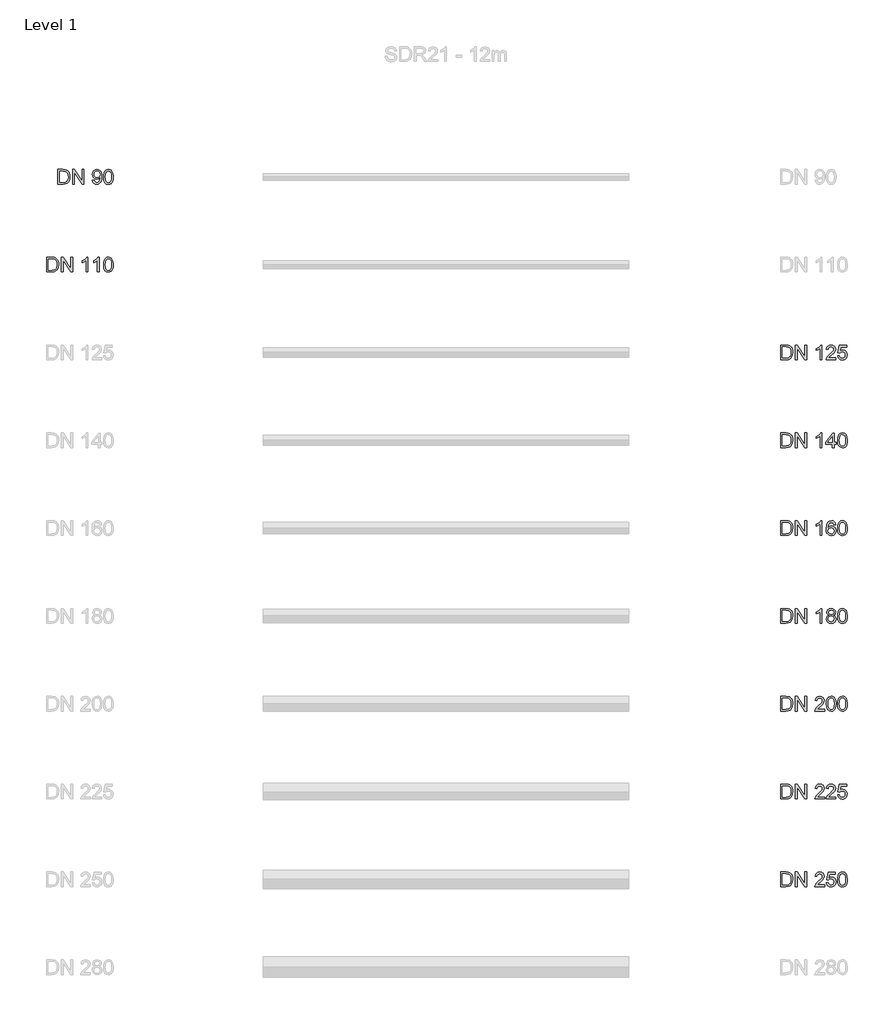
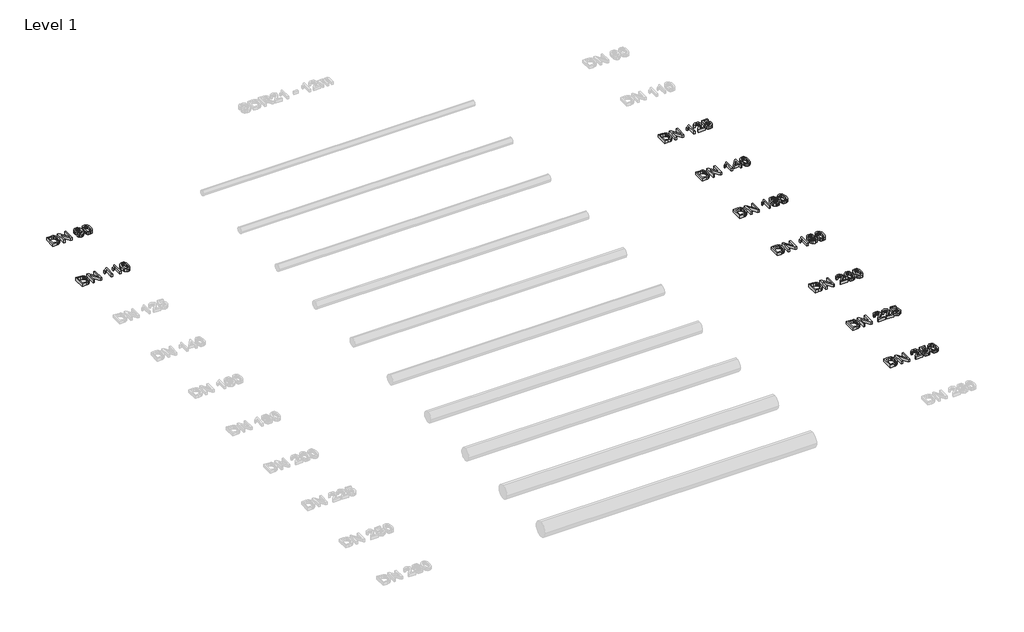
# One storey, part 9 of 26: 9 proxies.
"""IFC4 building model written with IfcOpenShell, lengths in millimetres."""

from ifc_helpers import new_model, si_unit, origin, origin_with_axes, place, context, project, spatial, polyline, outline, extrude, element, save

model = new_model("IFC4")

# Units and contexts
model_context = context("Model", 3, world=origin())
ifc_project = project(units=[si_unit("LENGTHUNIT", "METRE", prefix="MILLI")], contexts=[model_context])

# Site, building, storey
site = spatial("IfcSite", under=ifc_project)
building = spatial("IfcBuilding", under=site)
storey = spatial("IfcBuildingStorey", under=building, Name="Level 1", Elevation=0.0)

# Proxies
placement = place(None, origin())
element("IfcBuildingElementProxy", 1, Name="200mm Arial", ObjectType="200mm Arial", at=placement, inside=storey, context=model_context, shape_type="SweptSolid", body=[
    extrude(outline(polyline([(-19337.4878779, -70413.949573), (-19337.4878779, -70213.0369527), (-19268.17891, -70213.0369527), (-19232.3226782, -70215.9309577), (-19216.3075487, -70221.5105013), (-19202.7940167, -70230.302881), (-19188.90034, -70245.606772), (-19179.0043144, -70264.6385338), (-19173.0814143, -70287.0302846), (-19171.1071142, -70312.4141423), (-19176.4536659, -70352.9547382), (-19190.187927, -70382.2136195), (-19208.5329759, -70400.436041), (-19232.5434074, -70410.5160077), (-19264.8434466, -70413.949573), (-19337.4878779, -70413.949573)]), holes=[polyline([(-19312.3738004, -70388.8354954), (-19267.9336553, -70388.8354954), (-19235.6090907, -70385.2057264), (-19216.9697363, -70374.9540815), (-19208.2448016, -70364.0831685), (-19201.6903707, -70350.0116822), (-19197.5884865, -70332.6783089), (-19196.2211917, -70312.0217348), (-19198.9005989, -70284.6513144), (-19206.9388205, -70264.4423301), (-19218.8152776, -70250.5609162), (-19233.0093913, -70242.1732067), (-19268.6203684, -70238.1510302), (-19312.3738004, -70238.1510302), (-19312.3738004, -70388.8354954)])]), origin_with_axes(), (0.0, 0.0, 1.0), 50.0),
    extrude(outline(polyline([(-19136.5752576, -70413.949573), (-19136.5752576, -70213.0369527), (-19109.6953465, -70213.0369527), (-19004.7263505, -70372.2072292), (-19004.7263505, -70213.0369527), (-18979.612273, -70213.0369527), (-18979.612273, -70413.949573), (-19006.4921841, -70413.949573), (-19111.4611801, -70254.7302454), (-19111.4611801, -70413.949573), (-19136.5752576, -70413.949573)])), origin_with_axes(), (0.0, 0.0, 1.0), 50.0),
    extrude(outline(polyline([(-18863.4596644, -70363.7214179), (-18838.3455868, -70360.5821582), (-18834.0536302, -70374.8375855), (-18827.0638723, -70384.5435388), (-18817.5479914, -70390.116951), (-18805.6776657, -70391.9747551), (-18785.3460541, -70387.1922892), (-18771.562742, -70374.4145212), (-18763.3467108, -70352.5868562), (-18759.7169417, -70323.4506021), (-18759.8640945, -70318.5455089), (-18768.5645037, -70329.1650358), (-18779.9504515, -70337.5772708), (-18793.2003347, -70343.0587125), (-18807.4925502, -70344.8858597), (-18830.3932044, -70340.4222249), (-18849.4556231, -70327.0313202), (-18862.3130988, -70306.3440894), (-18866.5989241, -70279.9914758), (-18862.1046324, -70252.7682081), (-18848.6217572, -70231.4310524), (-18828.3698534, -70217.6354776), (-18803.5684756, -70213.0369527), (-18784.8371506, -70215.6611776), (-18767.7858202, -70223.5338523), (-18753.5242615, -70236.2625693), (-18743.162252, -70253.4549212), (-18736.8530757, -70277.2200981), (-18734.750017, -70309.6672901), (-18736.8469444, -70344.070388), (-18743.1377265, -70370.6621249), (-18753.5671811, -70390.6442486), (-18768.0801258, -70405.2185069), (-18786.0511612, -70414.1212512), (-18806.8548881, -70417.0888326), (-18828.3269338, -70413.5878223), (-18845.4579721, -70403.0847914), (-18857.4386624, -70386.2419274), (-18863.4596644, -70363.7214179)]), holes=[polyline([(-18759.8640945, -70279.4028646), (-18762.5741586, -70262.3821909), (-18770.7043507, -70249.2855919), (-18783.3227031, -70240.9346706), (-18799.4972481, -70238.1510302), (-18816.2726671, -70241.1492685), (-18829.7126227, -70250.1439832), (-18838.5417906, -70263.9089012), (-18841.4848465, -70281.2177491), (-18838.7012061, -70296.7362379), (-18830.3502848, -70309.0541534), (-18817.2414231, -70317.092375), (-18800.1839612, -70319.7717822), (-18784.1381749, -70317.092375), (-18771.2193855, -70309.0541534), (-18762.7029173, -70296.2825168), (-18759.8640945, -70279.4028646)])]), origin_with_axes(), (0.0, 0.0, 1.0), 50.0),
    extrude(outline(polyline([(-18712.7751992, -70315.1119436), (-18710.9296578, -70282.9529258), (-18705.3930338, -70257.3054194), (-18696.2205094, -70237.7770168), (-18683.4672669, -70223.9753106), (-18667.0413358, -70215.7715422), (-18646.8507456, -70213.0369527), (-18631.3751764, -70214.6556334), (-18617.5182879, -70219.5116758), (-18605.930005, -70227.4150073), (-18597.2602527, -70238.1755557), (-18585.4880288, -70267.9004209), (-18580.9262921, -70315.1119436), (-18582.7534393, -70347.0870203), (-18588.2348811, -70372.6732131), (-18597.3522232, -70392.2200098), (-18610.0870716, -70406.0768983), (-18626.5497909, -70414.335849), (-18646.8507456, -70417.0888326), (-18672.9458418, -70412.3063667), (-18692.7624186, -70397.9589689), (-18701.5180101, -70382.8298218), (-18707.772004, -70363.9789353), (-18712.7751992, -70315.1119436)]), holes=[polyline([(-18687.6611216, -70315.0628927), (-18684.7180657, -70354.5672876), (-18675.8888978, -70377.4311536), (-18662.7432478, -70388.3388547), (-18646.8507456, -70391.9747551), (-18630.9582434, -70388.326592), (-18617.8125935, -70377.3821026), (-18608.9834256, -70354.5059739), (-18606.0403696, -70315.0628927), (-18608.8853237, -70276.4475459), (-18617.420186, -70253.4058703), (-18630.5413105, -70241.9647402), (-18647.1450512, -70238.1510302), (-18662.8658751, -70241.5110191), (-18675.4964903, -70251.5909857), (-18684.6199638, -70276.0674012), (-18687.6611216, -70315.0628927)])]), origin_with_axes(), (0.0, 0.0, 1.0), 50.0),
])
element("IfcBuildingElementProxy", 2, Name="200mm Arial", ObjectType="200mm Arial", at=placement, inside=storey, context=model_context, shape_type="SweptSolid", body=[
    extrude(outline(polyline([(-19491.3116028, -71613.949573), (-19491.3116028, -71413.0369527), (-19422.0026349, -71413.0369527), (-19386.1464031, -71415.9309577), (-19370.1312736, -71421.5105013), (-19356.6177416, -71430.302881), (-19342.724065, -71445.606772), (-19332.8280393, -71464.6385338), (-19326.9051392, -71487.0302846), (-19324.9308391, -71512.4141423), (-19330.2773908, -71552.9547382), (-19344.0116519, -71582.2136195), (-19362.3567008, -71600.436041), (-19386.3671323, -71610.5160077), (-19418.6671715, -71613.949573), (-19491.3116028, -71613.949573)]), holes=[polyline([(-19466.1975253, -71588.8354954), (-19421.7573803, -71588.8354954), (-19389.4328156, -71585.2057264), (-19370.7934612, -71574.9540815), (-19362.0685265, -71564.0831685), (-19355.5140957, -71550.0116822), (-19351.4122114, -71532.6783089), (-19350.0449167, -71512.0217348), (-19352.7243239, -71484.6513144), (-19360.7625455, -71464.4423301), (-19372.6390025, -71450.5609162), (-19386.8331162, -71442.1732067), (-19422.4440933, -71438.1510302), (-19466.1975253, -71438.1510302), (-19466.1975253, -71588.8354954)])]), origin_with_axes(), (0.0, 0.0, 1.0), 50.0),
    extrude(outline(polyline([(-19290.3989825, -71613.949573), (-19290.3989825, -71413.0369527), (-19263.5190714, -71413.0369527), (-19158.5500754, -71572.2072292), (-19158.5500754, -71413.0369527), (-19133.4359979, -71413.0369527), (-19133.4359979, -71613.949573), (-19160.315909, -71613.949573), (-19265.284905, -71454.7302454), (-19265.284905, -71613.949573), (-19290.3989825, -71613.949573)])), origin_with_axes(), (0.0, 0.0, 1.0), 50.0),
    extrude(outline(polyline([(-18926.2448582, -71613.949573), (-18951.3589358, -71613.949573), (-18951.3589358, -71457.3789958), (-18975.1486381, -71474.3260931), (-19001.5870908, -71487.0057592), (-19001.5870908, -71463.2651077), (-18964.7743658, -71439.769711), (-18951.3037535, -71426.1948653), (-18942.431666, -71413.0369527), (-18926.2448582, -71413.0369527), (-18926.2448582, -71613.949573)])), origin_with_axes(), (0.0, 0.0, 1.0), 50.0),
    extrude(outline(polyline([(-18772.4211333, -71613.949573), (-18797.5352108, -71613.949573), (-18797.5352108, -71457.3789958), (-18821.3249132, -71474.3260931), (-18847.7633659, -71487.0057592), (-18847.7633659, -71463.2651077), (-18810.9506409, -71439.769711), (-18797.4800285, -71426.1948653), (-18788.6079411, -71413.0369527), (-18772.4211333, -71413.0369527), (-18772.4211333, -71613.949573)])), origin_with_axes(), (0.0, 0.0, 1.0), 50.0),
    extrude(outline(polyline([(-18712.7751992, -71515.1119436), (-18710.9296578, -71482.9529258), (-18705.3930338, -71457.3054194), (-18696.2205094, -71437.7770168), (-18683.4672669, -71423.9753106), (-18667.0413358, -71415.7715422), (-18646.8507456, -71413.0369527), (-18631.3751764, -71414.6556334), (-18617.5182879, -71419.5116758), (-18605.930005, -71427.4150073), (-18597.2602527, -71438.1755557), (-18585.4880288, -71467.9004209), (-18580.9262921, -71515.1119436), (-18582.7534393, -71547.0870203), (-18588.2348811, -71572.6732131), (-18597.3522232, -71592.2200098), (-18610.0870716, -71606.0768983), (-18626.5497909, -71614.335849), (-18646.8507456, -71617.0888326), (-18672.9458418, -71612.3063667), (-18692.7624186, -71597.9589689), (-18701.5180101, -71582.8298218), (-18707.772004, -71563.9789353), (-18712.7751992, -71515.1119436)]), holes=[polyline([(-18687.6611216, -71515.0628927), (-18684.7180657, -71554.5672876), (-18675.8888978, -71577.4311536), (-18662.7432478, -71588.3388547), (-18646.8507456, -71591.9747551), (-18630.9582434, -71588.326592), (-18617.8125935, -71577.3821026), (-18608.9834256, -71554.5059739), (-18606.0403696, -71515.0628927), (-18608.8853237, -71476.4475459), (-18617.420186, -71453.4058703), (-18630.5413105, -71441.9647402), (-18647.1450512, -71438.1510302), (-18662.8658751, -71441.5110191), (-18675.4964903, -71451.5909857), (-18684.6199638, -71476.0674012), (-18687.6611216, -71515.0628927)])]), origin_with_axes(), (0.0, 0.0, 1.0), 50.0),
])
element("IfcBuildingElementProxy", 3, Name="200mm Arial", ObjectType="200mm Arial", at=placement, inside=storey, context=model_context, shape_type="SweptSolid", body=[
    extrude(outline(polyline([(-9460.6923074, -75213.949573), (-9460.6923074, -75013.0369527), (-9391.3833395, -75013.0369527), (-9355.5271077, -75015.9309577), (-9339.5119782, -75021.5105013), (-9325.9984462, -75030.302881), (-9312.1047695, -75045.606772), (-9302.2087438, -75064.6385338), (-9296.2858437, -75087.0302846), (-9294.3115437, -75112.4141423), (-9299.6580953, -75152.9547382), (-9313.3923565, -75182.2136195), (-9331.7374053, -75200.436041), (-9355.7478369, -75210.5160077), (-9388.0478761, -75213.949573), (-9460.6923074, -75213.949573)]), holes=[polyline([(-9435.5782298, -75188.8354954), (-9391.1380848, -75188.8354954), (-9358.8135202, -75185.2057264), (-9340.1741658, -75174.9540815), (-9331.4492311, -75164.0831685), (-9324.8948002, -75150.0116822), (-9320.792916, -75132.6783089), (-9319.4256212, -75112.0217348), (-9322.1050284, -75084.6513144), (-9330.14325, -75064.4423301), (-9342.0197071, -75050.5609162), (-9356.2138207, -75042.1732067), (-9391.8247979, -75038.1510302), (-9435.5782298, -75038.1510302), (-9435.5782298, -75188.8354954)])]), origin_with_axes(), (0.0, 0.0, 1.0), 50.0),
    extrude(outline(polyline([(-9259.7796871, -75213.949573), (-9259.7796871, -75013.0369527), (-9232.899776, -75013.0369527), (-9127.93078, -75172.2072292), (-9127.93078, -75013.0369527), (-9102.8167025, -75013.0369527), (-9102.8167025, -75213.949573), (-9129.6966136, -75213.949573), (-9234.6656095, -75054.7302454), (-9234.6656095, -75213.949573), (-9259.7796871, -75213.949573)])), origin_with_axes(), (0.0, 0.0, 1.0), 50.0),
    extrude(outline(polyline([(-8895.6255628, -75213.949573), (-8920.7396403, -75213.949573), (-8920.7396403, -75057.3789958), (-8944.5293427, -75074.3260931), (-8970.9677954, -75087.0057592), (-8970.9677954, -75063.2651077), (-8934.1550704, -75039.769711), (-8920.684458, -75026.1948653), (-8911.8123706, -75013.0369527), (-8895.6255628, -75013.0369527), (-8895.6255628, -75213.949573)])), origin_with_axes(), (0.0, 0.0, 1.0), 50.0),
    extrude(outline(polyline([(-8707.2699812, -75066.4043674), (-8732.3840588, -75069.5436271), (-8741.8999397, -75048.5988789), (-8753.2920188, -75040.7629924), (-8767.0630682, -75038.1510302), (-8789.7245991, -75044.2333458), (-8799.1607723, -75053.8411973), (-8806.8679001, -75067.066555), (-8812.0734303, -75085.7733545), (-8814.0048108, -75111.8255311), (-8803.9309755, -75100.0717013), (-8791.8583147, -75091.7882251), (-8778.4612787, -75086.8770005), (-8764.4143178, -75085.2399256), (-8741.2132267, -75089.7158232), (-8721.7400064, -75103.143516), (-8708.5330428, -75123.6590686), (-8704.1307216, -75149.3985455), (-8706.2031235, -75167.3818437), (-8712.4203292, -75184.0530295), (-8722.2673039, -75198.1919608), (-8735.2290129, -75208.5784958), (-8750.7168449, -75214.9612484), (-8768.1421887, -75217.0888326), (-8796.6346492, -75211.4479754), (-8819.326837, -75194.5254036), (-8827.9858594, -75181.4165418), (-8834.1708755, -75164.6533856), (-8839.1188883, -75120.1641897), (-8833.6251839, -75070.144501), (-8826.7580533, -75051.0667539), (-8817.1440705, -75035.9437382), (-8806.723813, -75025.9220195), (-8794.6419551, -75018.763649), (-8765.4934384, -75013.0369527), (-8743.4573068, -75016.5808825), (-8725.8112338, -75027.2126722), (-8713.4503988, -75044.0984558), (-8707.2699812, -75066.4043674)]), holes=[polyline([(-8814.0048108, -75149.0061381), (-8808.1922753, -75170.7602267), (-8792.7412315, -75186.554627), (-8770.104226, -75191.9747551), (-8753.5311421, -75189.1665892), (-8740.5019881, -75180.7420915), (-8732.0590964, -75167.4983397), (-8729.2447991, -75150.2324114), (-8732.0223082, -75133.6593275), (-8740.3548353, -75121.022581), (-8753.6047185, -75113.0211476), (-8771.1342956, -75110.3540031), (-8787.682854, -75113.0211476), (-8801.5213484, -75121.022581), (-8810.8839452, -75133.3527592), (-8814.0048108, -75149.0061381)])]), origin_with_axes(), (0.0, 0.0, 1.0), 50.0),
    extrude(outline(polyline([(-8682.1559037, -75115.1119436), (-8680.3103624, -75082.9529258), (-8674.7737383, -75057.3054194), (-8665.6012139, -75037.7770168), (-8652.8479714, -75023.9753106), (-8636.4220403, -75015.7715422), (-8616.2314502, -75013.0369527), (-8600.7558809, -75014.6556334), (-8586.8989924, -75019.5116758), (-8575.3107096, -75027.4150073), (-8566.6409572, -75038.1755557), (-8554.8687334, -75067.9004209), (-8550.3069966, -75115.1119436), (-8552.1341439, -75147.0870203), (-8557.6155856, -75172.6732131), (-8566.7329277, -75192.2200098), (-8579.4677761, -75206.0768983), (-8595.9304954, -75214.335849), (-8616.2314502, -75217.0888326), (-8642.3265464, -75212.3063667), (-8662.1431232, -75197.9589689), (-8670.8987147, -75182.8298218), (-8677.1527086, -75163.9789353), (-8682.1559037, -75115.1119436)]), holes=[polyline([(-8657.0418262, -75115.0628927), (-8654.0987702, -75154.5672876), (-8645.2696023, -75177.4311536), (-8632.1239524, -75188.3388547), (-8616.2314502, -75191.9747551), (-8600.338948, -75188.326592), (-8587.193298, -75177.3821026), (-8578.3641301, -75154.5059739), (-8575.4210742, -75115.0628927), (-8578.2660283, -75076.4475459), (-8586.8008906, -75053.4058703), (-8599.9220151, -75041.9647402), (-8616.5257558, -75038.1510302), (-8632.2465797, -75041.5110191), (-8644.8771949, -75051.5909857), (-8654.0006683, -75076.0674012), (-8657.0418262, -75115.0628927)])]), origin_with_axes(), (0.0, 0.0, 1.0), 50.0),
])
element("IfcBuildingElementProxy", 4, Name="200mm Arial", ObjectType="200mm Arial", at=placement, inside=storey, context=model_context, shape_type="SweptSolid", body=[
    extrude(outline(polyline([(-9460.6923074, -77613.949573), (-9460.6923074, -77413.0369527), (-9391.3833395, -77413.0369527), (-9355.5271077, -77415.9309577), (-9339.5119782, -77421.5105013), (-9325.9984462, -77430.302881), (-9312.1047695, -77445.606772), (-9302.2087438, -77464.6385338), (-9296.2858437, -77487.0302846), (-9294.3115437, -77512.4141423), (-9299.6580953, -77552.9547382), (-9313.3923565, -77582.2136195), (-9331.7374053, -77600.436041), (-9355.7478369, -77610.5160077), (-9388.0478761, -77613.949573), (-9460.6923074, -77613.949573)]), holes=[polyline([(-9435.5782298, -77588.8354954), (-9391.1380848, -77588.8354954), (-9358.8135202, -77585.2057264), (-9340.1741658, -77574.9540815), (-9331.4492311, -77564.0831685), (-9324.8948002, -77550.0116822), (-9320.792916, -77532.6783089), (-9319.4256212, -77512.0217348), (-9322.1050284, -77484.6513144), (-9330.14325, -77464.4423301), (-9342.0197071, -77450.5609162), (-9356.2138207, -77442.1732067), (-9391.8247979, -77438.1510302), (-9435.5782298, -77438.1510302), (-9435.5782298, -77588.8354954)])]), origin_with_axes(), (0.0, 0.0, 1.0), 50.0),
    extrude(outline(polyline([(-9259.7796871, -77613.949573), (-9259.7796871, -77413.0369527), (-9232.899776, -77413.0369527), (-9127.93078, -77572.2072292), (-9127.93078, -77413.0369527), (-9102.8167025, -77413.0369527), (-9102.8167025, -77613.949573), (-9129.6966136, -77613.949573), (-9234.6656095, -77454.7302454), (-9234.6656095, -77613.949573), (-9259.7796871, -77613.949573)])), origin_with_axes(), (0.0, 0.0, 1.0), 50.0),
    extrude(outline(polyline([(-8861.0937062, -77588.8354954), (-8861.0937062, -77613.949573), (-8992.9426132, -77613.949573), (-8990.2448119, -77596.6345937), (-8974.9899719, -77569.9754118), (-8943.548324, -77540.8636832), (-8900.1872995, -77499.0232377), (-8892.0571074, -77484.6022634), (-8889.3470434, -77470.5736967), (-8891.9038233, -77457.9982638), (-8899.5741629, -77447.5442838), (-8911.3647808, -77440.4993436), (-8926.2823957, -77438.1510302), (-8941.9480373, -77440.4441613), (-8954.1188, -77447.3235546), (-8961.9730806, -77458.2496499), (-8964.689276, -77472.6828868), (-8989.8033535, -77469.5436271), (-8983.7149065, -77445.2511527), (-8970.5508625, -77427.5069778), (-8950.9979344, -77416.6544589), (-8925.7428355, -77413.0369527), (-8900.3037955, -77417.0591291), (-8880.7876556, -77429.1256586), (-8868.3716383, -77447.1518763), (-8864.2329659, -77469.0531178), (-8868.6966007, -77492.8673456), (-8883.5345079, -77517.4909138), (-8919.513367, -77551.9001431), (-8948.4043664, -77576.0577275), (-8959.7351318, -77588.8354954), (-8861.0937062, -77588.8354954)])), origin_with_axes(), (0.0, 0.0, 1.0), 50.0),
    extrude(outline(polyline([(-8835.9796286, -77515.1119436), (-8834.1340873, -77482.9529258), (-8828.5974633, -77457.3054194), (-8819.4249388, -77437.7770168), (-8806.6716963, -77423.9753106), (-8790.2457653, -77415.7715422), (-8770.0551751, -77413.0369527), (-8754.5796058, -77414.6556334), (-8740.7227173, -77419.5116758), (-8729.1344345, -77427.4150073), (-8720.4646821, -77438.1755557), (-8708.6924583, -77467.9004209), (-8704.1307216, -77515.1119436), (-8705.9578688, -77547.0870203), (-8711.4393105, -77572.6732131), (-8720.5566526, -77592.2200098), (-8733.291501, -77606.0768983), (-8749.7542203, -77614.335849), (-8770.0551751, -77617.0888326), (-8796.1502713, -77612.3063667), (-8815.9668481, -77597.9589689), (-8824.7224396, -77582.8298218), (-8830.9764335, -77563.9789353), (-8835.9796286, -77515.1119436)]), holes=[polyline([(-8810.8655511, -77515.0628927), (-8807.9224951, -77554.5672876), (-8799.0933272, -77577.4311536), (-8785.9476773, -77588.3388547), (-8770.0551751, -77591.9747551), (-8754.1626729, -77588.326592), (-8741.0170229, -77577.3821026), (-8732.1878551, -77554.5059739), (-8729.2447991, -77515.0628927), (-8732.0897532, -77476.4475459), (-8740.6246155, -77453.4058703), (-8753.74574, -77441.9647402), (-8770.3494807, -77438.1510302), (-8786.0703046, -77441.5110191), (-8798.7009198, -77451.5909857), (-8807.8243933, -77476.0674012), (-8810.8655511, -77515.0628927)])]), origin_with_axes(), (0.0, 0.0, 1.0), 50.0),
    extrude(outline(polyline([(-8682.1559037, -77515.1119436), (-8680.3103624, -77482.9529258), (-8674.7737383, -77457.3054194), (-8665.6012139, -77437.7770168), (-8652.8479714, -77423.9753106), (-8636.4220403, -77415.7715422), (-8616.2314502, -77413.0369527), (-8600.7558809, -77414.6556334), (-8586.8989924, -77419.5116758), (-8575.3107096, -77427.4150073), (-8566.6409572, -77438.1755557), (-8554.8687334, -77467.9004209), (-8550.3069966, -77515.1119436), (-8552.1341439, -77547.0870203), (-8557.6155856, -77572.6732131), (-8566.7329277, -77592.2200098), (-8579.4677761, -77606.0768983), (-8595.9304954, -77614.335849), (-8616.2314502, -77617.0888326), (-8642.3265464, -77612.3063667), (-8662.1431232, -77597.9589689), (-8670.8987147, -77582.8298218), (-8677.1527086, -77563.9789353), (-8682.1559037, -77515.1119436)]), holes=[polyline([(-8657.0418262, -77515.0628927), (-8654.0987702, -77554.5672876), (-8645.2696023, -77577.4311536), (-8632.1239524, -77588.3388547), (-8616.2314502, -77591.9747551), (-8600.338948, -77588.326592), (-8587.193298, -77577.3821026), (-8578.3641301, -77554.5059739), (-8575.4210742, -77515.0628927), (-8578.2660283, -77476.4475459), (-8586.8008906, -77453.4058703), (-8599.9220151, -77441.9647402), (-8616.5257558, -77438.1510302), (-8632.2465797, -77441.5110191), (-8644.8771949, -77451.5909857), (-8654.0006683, -77476.0674012), (-8657.0418262, -77515.0628927)])]), origin_with_axes(), (0.0, 0.0, 1.0), 50.0),
])
element("IfcBuildingElementProxy", 5, Name="200mm Arial", ObjectType="200mm Arial", at=placement, inside=storey, context=model_context, shape_type="SweptSolid", body=[
    extrude(outline(polyline([(-9460.6923074, -80013.949573), (-9460.6923074, -79813.0369527), (-9391.3833395, -79813.0369527), (-9355.5271077, -79815.9309577), (-9339.5119782, -79821.5105013), (-9325.9984462, -79830.302881), (-9312.1047695, -79845.606772), (-9302.2087438, -79864.6385338), (-9296.2858437, -79887.0302846), (-9294.3115437, -79912.4141423), (-9299.6580953, -79952.9547382), (-9313.3923565, -79982.2136195), (-9331.7374053, -80000.436041), (-9355.7478369, -80010.5160077), (-9388.0478761, -80013.949573), (-9460.6923074, -80013.949573)]), holes=[polyline([(-9435.5782298, -79988.8354954), (-9391.1380848, -79988.8354954), (-9358.8135202, -79985.2057264), (-9340.1741658, -79974.9540815), (-9331.4492311, -79964.0831685), (-9324.8948002, -79950.0116822), (-9320.792916, -79932.6783089), (-9319.4256212, -79912.0217348), (-9322.1050284, -79884.6513144), (-9330.14325, -79864.4423301), (-9342.0197071, -79850.5609162), (-9356.2138207, -79842.1732067), (-9391.8247979, -79838.1510302), (-9435.5782298, -79838.1510302), (-9435.5782298, -79988.8354954)])]), origin_with_axes(), (0.0, 0.0, 1.0), 50.0),
    extrude(outline(polyline([(-9259.7796871, -80013.949573), (-9259.7796871, -79813.0369527), (-9232.899776, -79813.0369527), (-9127.93078, -79972.2072292), (-9127.93078, -79813.0369527), (-9102.8167025, -79813.0369527), (-9102.8167025, -80013.949573), (-9129.6966136, -80013.949573), (-9234.6656095, -79854.7302454), (-9234.6656095, -80013.949573), (-9259.7796871, -80013.949573)])), origin_with_axes(), (0.0, 0.0, 1.0), 50.0),
    extrude(outline(polyline([(-8861.0937062, -79988.8354954), (-8861.0937062, -80013.949573), (-8992.9426132, -80013.949573), (-8990.2448119, -79996.6345937), (-8974.9899719, -79969.9754118), (-8943.548324, -79940.8636832), (-8900.1872995, -79899.0232377), (-8892.0571074, -79884.6022634), (-8889.3470434, -79870.5736967), (-8891.9038233, -79857.9982638), (-8899.5741629, -79847.5442838), (-8911.3647808, -79840.4993436), (-8926.2823957, -79838.1510302), (-8941.9480373, -79840.4441613), (-8954.1188, -79847.3235546), (-8961.9730806, -79858.2496499), (-8964.689276, -79872.6828868), (-8989.8033535, -79869.5436271), (-8983.7149065, -79845.2511527), (-8970.5508625, -79827.5069778), (-8950.9979344, -79816.6544589), (-8925.7428355, -79813.0369527), (-8900.3037955, -79817.0591291), (-8880.7876556, -79829.1256586), (-8868.3716383, -79847.1518763), (-8864.2329659, -79869.0531178), (-8868.6966007, -79892.8673456), (-8883.5345079, -79917.4909138), (-8919.513367, -79951.9001431), (-8948.4043664, -79976.0577275), (-8959.7351318, -79988.8354954), (-8861.0937062, -79988.8354954)])), origin_with_axes(), (0.0, 0.0, 1.0), 50.0),
    extrude(outline(polyline([(-8835.9796286, -79960.5821582), (-8810.8655511, -79957.4428985), (-8806.2547634, -79972.5199289), (-8798.2104105, -79983.3172655), (-8786.7692804, -79989.8103827), (-8771.9681615, -79991.9747551), (-8753.9664692, -79988.9642541), (-8740.4774627, -79979.9327511), (-8732.052965, -79965.9225785), (-8729.2447991, -79947.9760685), (-8731.8751554, -79931.0780222), (-8739.7662242, -79918.1531014), (-8752.9793191, -79909.9493329), (-8771.575754, -79907.2147434), (-8793.6241482, -79911.5802764), (-8807.7262914, -79922.9110419), (-8832.8403689, -79919.7717822), (-8810.8655511, -79816.1762123), (-8713.5485006, -79816.1762123), (-8713.5485006, -79841.2902899), (-8790.558465, -79841.2902899), (-8801.3006192, -79896.619742), (-8783.3602406, -79885.7304349), (-8764.5614706, -79882.1006659), (-8741.0967307, -79886.601089), (-8721.6173791, -79900.1023582), (-8708.5023859, -79920.6792244), (-8704.1307216, -79946.4064386), (-8708.0670589, -79971.5205162), (-8719.876071, -79993.0048247), (-8730.3116569, -80003.5415782), (-8742.4885509, -80011.0678307), (-8756.4067531, -80015.5835821), (-8772.0662633, -80017.0888326), (-8796.7327511, -80013.2199403), (-8816.383781, -80001.6132634), (-8829.8543934, -79983.6177025), (-8835.9796286, -79960.5821582)])), origin_with_axes(), (0.0, 0.0, 1.0), 50.0),
    extrude(outline(polyline([(-8682.1559037, -79915.1119436), (-8680.3103624, -79882.9529258), (-8674.7737383, -79857.3054194), (-8665.6012139, -79837.7770168), (-8652.8479714, -79823.9753106), (-8636.4220403, -79815.7715422), (-8616.2314502, -79813.0369527), (-8600.7558809, -79814.6556334), (-8586.8989924, -79819.5116758), (-8575.3107096, -79827.4150073), (-8566.6409572, -79838.1755557), (-8554.8687334, -79867.9004209), (-8550.3069966, -79915.1119436), (-8552.1341439, -79947.0870203), (-8557.6155856, -79972.6732131), (-8566.7329277, -79992.2200098), (-8579.4677761, -80006.0768983), (-8595.9304954, -80014.335849), (-8616.2314502, -80017.0888326), (-8642.3265464, -80012.3063667), (-8662.1431232, -79997.9589689), (-8670.8987147, -79982.8298218), (-8677.1527086, -79963.9789353), (-8682.1559037, -79915.1119436)]), holes=[polyline([(-8657.0418262, -79915.0628927), (-8654.0987702, -79954.5672876), (-8645.2696023, -79977.4311536), (-8632.1239524, -79988.3388547), (-8616.2314502, -79991.9747551), (-8600.338948, -79988.326592), (-8587.193298, -79977.3821026), (-8578.3641301, -79954.5059739), (-8575.4210742, -79915.0628927), (-8578.2660283, -79876.4475459), (-8586.8008906, -79853.4058703), (-8599.9220151, -79841.9647402), (-8616.5257558, -79838.1510302), (-8632.2465797, -79841.5110191), (-8644.8771949, -79851.5909857), (-8654.0006683, -79876.0674012), (-8657.0418262, -79915.0628927)])]), origin_with_axes(), (0.0, 0.0, 1.0), 50.0),
])
element("IfcBuildingElementProxy", 6, Name="200mm Arial", ObjectType="200mm Arial", at=placement, inside=storey, context=model_context, shape_type="SweptSolid", body=[
    extrude(outline(polyline([(-9460.6923074, -72813.949573), (-9460.6923074, -72613.0369527), (-9391.3833395, -72613.0369527), (-9355.5271077, -72615.9309577), (-9339.5119782, -72621.5105013), (-9325.9984462, -72630.302881), (-9312.1047695, -72645.606772), (-9302.2087438, -72664.6385338), (-9296.2858437, -72687.0302846), (-9294.3115437, -72712.4141423), (-9299.6580953, -72752.9547382), (-9313.3923565, -72782.2136195), (-9331.7374053, -72800.436041), (-9355.7478369, -72810.5160077), (-9388.0478761, -72813.949573), (-9460.6923074, -72813.949573)]), holes=[polyline([(-9435.5782298, -72788.8354954), (-9391.1380848, -72788.8354954), (-9358.8135202, -72785.2057264), (-9340.1741658, -72774.9540815), (-9331.4492311, -72764.0831685), (-9324.8948002, -72750.0116822), (-9320.792916, -72732.6783089), (-9319.4256212, -72712.0217348), (-9322.1050284, -72684.6513144), (-9330.14325, -72664.4423301), (-9342.0197071, -72650.5609162), (-9356.2138207, -72642.1732067), (-9391.8247979, -72638.1510302), (-9435.5782298, -72638.1510302), (-9435.5782298, -72788.8354954)])]), origin_with_axes(), (0.0, 0.0, 1.0), 50.0),
    extrude(outline(polyline([(-9259.7796871, -72813.949573), (-9259.7796871, -72613.0369527), (-9232.899776, -72613.0369527), (-9127.93078, -72772.2072292), (-9127.93078, -72613.0369527), (-9102.8167025, -72613.0369527), (-9102.8167025, -72813.949573), (-9129.6966136, -72813.949573), (-9234.6656095, -72654.7302454), (-9234.6656095, -72813.949573), (-9259.7796871, -72813.949573)])), origin_with_axes(), (0.0, 0.0, 1.0), 50.0),
    extrude(outline(polyline([(-8895.6255628, -72813.949573), (-8920.7396403, -72813.949573), (-8920.7396403, -72657.3789958), (-8944.5293427, -72674.3260931), (-8970.9677954, -72687.0057592), (-8970.9677954, -72663.2651077), (-8934.1550704, -72639.769711), (-8920.684458, -72626.1948653), (-8911.8123706, -72613.0369527), (-8895.6255628, -72613.0369527), (-8895.6255628, -72813.949573)])), origin_with_axes(), (0.0, 0.0, 1.0), 50.0),
    extrude(outline(polyline([(-8707.2699812, -72788.8354954), (-8707.2699812, -72813.949573), (-8839.1188883, -72813.949573), (-8836.421087, -72796.6345937), (-8821.166247, -72769.9754118), (-8789.7245991, -72740.8636832), (-8746.3635746, -72699.0232377), (-8738.2333825, -72684.6022634), (-8735.5233185, -72670.5736967), (-8738.0800983, -72657.9982638), (-8745.7504379, -72647.5442838), (-8757.5410559, -72640.4993436), (-8772.4586708, -72638.1510302), (-8788.1243124, -72640.4441613), (-8800.2950751, -72647.3235546), (-8808.1493557, -72658.2496499), (-8810.8655511, -72672.6828868), (-8835.9796286, -72669.5436271), (-8829.8911816, -72645.2511527), (-8816.7271375, -72627.5069778), (-8797.1742095, -72616.6544589), (-8771.9191105, -72613.0369527), (-8746.4800706, -72617.0591291), (-8726.9639307, -72629.1256586), (-8714.5479134, -72647.1518763), (-8710.4092409, -72669.0531178), (-8714.8728758, -72692.8673456), (-8729.710783, -72717.4909138), (-8765.6896421, -72751.9001431), (-8794.5806414, -72776.0577275), (-8805.9114069, -72788.8354954), (-8707.2699812, -72788.8354954)])), origin_with_axes(), (0.0, 0.0, 1.0), 50.0),
    extrude(outline(polyline([(-8682.1559037, -72760.5821582), (-8657.0418262, -72757.4428985), (-8652.4310385, -72772.5199289), (-8644.3866855, -72783.3172655), (-8632.9455555, -72789.8103827), (-8618.1444366, -72791.9747551), (-8600.1427443, -72788.9642541), (-8586.6537378, -72779.9327511), (-8578.2292401, -72765.9225785), (-8575.4210742, -72747.9760685), (-8578.0514304, -72731.0780222), (-8585.9424992, -72718.1531014), (-8599.1555942, -72709.9493329), (-8617.7520291, -72707.2147434), (-8639.8004233, -72711.5802764), (-8653.9025665, -72722.9110419), (-8679.016644, -72719.7717822), (-8657.0418262, -72616.1762123), (-8559.7247757, -72616.1762123), (-8559.7247757, -72641.2902899), (-8636.73474, -72641.2902899), (-8647.4768943, -72696.619742), (-8629.5365157, -72685.7304349), (-8610.7377457, -72682.1006659), (-8587.2730058, -72686.601089), (-8567.7936541, -72700.1023582), (-8554.678661, -72720.6792244), (-8550.3069966, -72746.4064386), (-8554.243334, -72771.5205162), (-8566.052346, -72793.0048247), (-8576.487932, -72803.5415782), (-8588.664826, -72811.0678307), (-8602.5830282, -72815.5835821), (-8618.2425384, -72817.0888326), (-8642.9090262, -72813.2199403), (-8662.5600561, -72801.6132634), (-8676.0306685, -72783.6177025), (-8682.1559037, -72760.5821582)])), origin_with_axes(), (0.0, 0.0, 1.0), 50.0),
])
element("IfcBuildingElementProxy", 7, Name="200mm Arial", ObjectType="200mm Arial", at=placement, inside=storey, context=model_context, shape_type="SweptSolid", body=[
    extrude(outline(polyline([(-9460.6923074, -74013.949573), (-9460.6923074, -73813.0369527), (-9391.3833395, -73813.0369527), (-9355.5271077, -73815.9309577), (-9339.5119782, -73821.5105013), (-9325.9984462, -73830.302881), (-9312.1047695, -73845.606772), (-9302.2087438, -73864.6385338), (-9296.2858437, -73887.0302846), (-9294.3115437, -73912.4141423), (-9299.6580953, -73952.9547382), (-9313.3923565, -73982.2136195), (-9331.7374053, -74000.436041), (-9355.7478369, -74010.5160077), (-9388.0478761, -74013.949573), (-9460.6923074, -74013.949573)]), holes=[polyline([(-9435.5782298, -73988.8354954), (-9391.1380848, -73988.8354954), (-9358.8135202, -73985.2057264), (-9340.1741658, -73974.9540815), (-9331.4492311, -73964.0831685), (-9324.8948002, -73950.0116822), (-9320.792916, -73932.6783089), (-9319.4256212, -73912.0217348), (-9322.1050284, -73884.6513144), (-9330.14325, -73864.4423301), (-9342.0197071, -73850.5609162), (-9356.2138207, -73842.1732067), (-9391.8247979, -73838.1510302), (-9435.5782298, -73838.1510302), (-9435.5782298, -73988.8354954)])]), origin_with_axes(), (0.0, 0.0, 1.0), 50.0),
    extrude(outline(polyline([(-9259.7796871, -74013.949573), (-9259.7796871, -73813.0369527), (-9232.899776, -73813.0369527), (-9127.93078, -73972.2072292), (-9127.93078, -73813.0369527), (-9102.8167025, -73813.0369527), (-9102.8167025, -74013.949573), (-9129.6966136, -74013.949573), (-9234.6656095, -73854.7302454), (-9234.6656095, -74013.949573), (-9259.7796871, -74013.949573)])), origin_with_axes(), (0.0, 0.0, 1.0), 50.0),
    extrude(outline(polyline([(-8895.6255628, -74013.949573), (-8920.7396403, -74013.949573), (-8920.7396403, -73857.3789958), (-8944.5293427, -73874.3260931), (-8970.9677954, -73887.0057592), (-8970.9677954, -73863.2651077), (-8934.1550704, -73839.769711), (-8920.684458, -73826.1948653), (-8911.8123706, -73813.0369527), (-8895.6255628, -73813.0369527), (-8895.6255628, -74013.949573)])), origin_with_axes(), (0.0, 0.0, 1.0), 50.0),
    extrude(outline(polyline([(-8754.3588766, -74013.949573), (-8754.3588766, -73966.8606776), (-8845.3974077, -73966.8606776), (-8845.3974077, -73941.7466), (-8748.0803572, -73816.1762123), (-8729.2447991, -73816.1762123), (-8729.2447991, -73941.7466), (-8704.1307216, -73941.7466), (-8704.1307216, -73966.8606776), (-8729.2447991, -73966.8606776), (-8729.2447991, -74013.949573), (-8754.3588766, -74013.949573)]), holes=[polyline([(-8754.3588766, -73941.7466), (-8754.3588766, -73864.1480245), (-8814.4953201, -73941.7466), (-8754.3588766, -73941.7466)])]), origin_with_axes(), (0.0, 0.0, 1.0), 50.0),
    extrude(outline(polyline([(-8682.1559037, -73915.1119436), (-8680.3103624, -73882.9529258), (-8674.7737383, -73857.3054194), (-8665.6012139, -73837.7770168), (-8652.8479714, -73823.9753106), (-8636.4220403, -73815.7715422), (-8616.2314502, -73813.0369527), (-8600.7558809, -73814.6556334), (-8586.8989924, -73819.5116758), (-8575.3107096, -73827.4150073), (-8566.6409572, -73838.1755557), (-8554.8687334, -73867.9004209), (-8550.3069966, -73915.1119436), (-8552.1341439, -73947.0870203), (-8557.6155856, -73972.6732131), (-8566.7329277, -73992.2200098), (-8579.4677761, -74006.0768983), (-8595.9304954, -74014.335849), (-8616.2314502, -74017.0888326), (-8642.3265464, -74012.3063667), (-8662.1431232, -73997.9589689), (-8670.8987147, -73982.8298218), (-8677.1527086, -73963.9789353), (-8682.1559037, -73915.1119436)]), holes=[polyline([(-8657.0418262, -73915.0628927), (-8654.0987702, -73954.5672876), (-8645.2696023, -73977.4311536), (-8632.1239524, -73988.3388547), (-8616.2314502, -73991.9747551), (-8600.338948, -73988.326592), (-8587.193298, -73977.3821026), (-8578.3641301, -73954.5059739), (-8575.4210742, -73915.0628927), (-8578.2660283, -73876.4475459), (-8586.8008906, -73853.4058703), (-8599.9220151, -73841.9647402), (-8616.5257558, -73838.1510302), (-8632.2465797, -73841.5110191), (-8644.8771949, -73851.5909857), (-8654.0006683, -73876.0674012), (-8657.0418262, -73915.0628927)])]), origin_with_axes(), (0.0, 0.0, 1.0), 50.0),
])
element("IfcBuildingElementProxy", 8, Name="200mm Arial", ObjectType="200mm Arial", at=placement, inside=storey, context=model_context, shape_type="SweptSolid", body=[
    extrude(outline(polyline([(-9460.6923074, -76413.949573), (-9460.6923074, -76213.0369527), (-9391.3833395, -76213.0369527), (-9355.5271077, -76215.9309577), (-9339.5119782, -76221.5105013), (-9325.9984462, -76230.302881), (-9312.1047695, -76245.606772), (-9302.2087438, -76264.6385338), (-9296.2858437, -76287.0302846), (-9294.3115437, -76312.4141423), (-9299.6580953, -76352.9547382), (-9313.3923565, -76382.2136195), (-9331.7374053, -76400.436041), (-9355.7478369, -76410.5160077), (-9388.0478761, -76413.949573), (-9460.6923074, -76413.949573)]), holes=[polyline([(-9435.5782298, -76388.8354954), (-9391.1380848, -76388.8354954), (-9358.8135202, -76385.2057264), (-9340.1741658, -76374.9540815), (-9331.4492311, -76364.0831685), (-9324.8948002, -76350.0116822), (-9320.792916, -76332.6783089), (-9319.4256212, -76312.0217348), (-9322.1050284, -76284.6513144), (-9330.14325, -76264.4423301), (-9342.0197071, -76250.5609162), (-9356.2138207, -76242.1732067), (-9391.8247979, -76238.1510302), (-9435.5782298, -76238.1510302), (-9435.5782298, -76388.8354954)])]), origin_with_axes(), (0.0, 0.0, 1.0), 50.0),
    extrude(outline(polyline([(-9259.7796871, -76413.949573), (-9259.7796871, -76213.0369527), (-9232.899776, -76213.0369527), (-9127.93078, -76372.2072292), (-9127.93078, -76213.0369527), (-9102.8167025, -76213.0369527), (-9102.8167025, -76413.949573), (-9129.6966136, -76413.949573), (-9234.6656095, -76254.7302454), (-9234.6656095, -76413.949573), (-9259.7796871, -76413.949573)])), origin_with_axes(), (0.0, 0.0, 1.0), 50.0),
    extrude(outline(polyline([(-8895.6255628, -76413.949573), (-8920.7396403, -76413.949573), (-8920.7396403, -76257.3789958), (-8944.5293427, -76274.3260931), (-8970.9677954, -76287.0057592), (-8970.9677954, -76263.2651077), (-8934.1550704, -76239.769711), (-8920.684458, -76226.1948653), (-8911.8123706, -76213.0369527), (-8895.6255628, -76213.0369527), (-8895.6255628, -76413.949573)])), origin_with_axes(), (0.0, 0.0, 1.0), 50.0),
    extrude(outline(polyline([(-8799.3876328, -76303.2906688), (-8812.8337198, -76296.6687929), (-8822.2698929, -76287.6924722), (-8827.8433052, -76276.5456478), (-8829.7011092, -76263.4122605), (-8825.6544073, -76243.7796247), (-8813.5143015, -76227.5560287), (-8794.6419551, -76216.6667217), (-8770.3985316, -76213.0369527), (-8746.0079553, -76216.7525608), (-8726.8903543, -76227.8993853), (-8714.5295193, -76244.3804986), (-8710.4092409, -76264.0989736), (-8712.2425196, -76276.8092965), (-8717.7423554, -76287.7660486), (-8726.9700621, -76296.687187), (-8739.9869534, -76303.2906688), (-8724.5297782, -76311.255314), (-8713.2787205, -76322.9846183), (-8706.4177213, -76337.9144959), (-8704.1307216, -76355.4808612), (-8708.6679328, -76379.4912927), (-8722.2795667, -76399.332395), (-8743.2978913, -76412.6497232), (-8770.0551751, -76417.0888326), (-8796.8124589, -76412.6313291), (-8817.8307835, -76399.2588186), (-8831.4424174, -76379.227644), (-8835.9796286, -76354.7941481), (-8833.6006584, -76336.5472012), (-8826.4637477, -76321.5376158), (-8814.9367785, -76310.2804267), (-8799.3876328, -76303.2906688)]), holes=[polyline([(-8804.5870317, -76264.1480245), (-8802.3613456, -76275.110908), (-8795.6842874, -76283.8664995), (-8784.7520608, -76289.6054586), (-8769.7608695, -76291.518445), (-8755.1191661, -76289.6177213), (-8744.3524864, -76283.9155504), (-8737.7306104, -76275.4542645), (-8735.5233185, -76265.276196), (-8737.8041868, -76254.7118513), (-8744.646792, -76245.974654), (-8755.5606245, -76240.1069361), (-8770.0551751, -76238.1510302), (-8784.6416962, -76240.0640166), (-8795.5371346, -76245.8029757), (-8802.3245574, -76254.2152106), (-8804.5870317, -76264.1480245)]), polyline([(-8810.8655511, -76353.9112313), (-8806.6716963, -76372.8203659), (-8800.8652922, -76380.9321639), (-8791.8337892, -76386.97156), (-8769.8589714, -76391.9747551), (-8752.7647213, -76389.3443988), (-8739.9379024, -76381.45333), (-8731.9180749, -76369.5032966), (-8729.2447991, -76354.6960463), (-8732.0039141, -76339.6374099), (-8740.2812589, -76327.4237277), (-8753.4023834, -76319.3303238), (-8770.6928372, -76316.6325225), (-8787.547964, -76319.2935356), (-8800.2460242, -76327.2765749), (-8808.2106694, -76339.2572652), (-8810.8655511, -76353.9112313)])]), origin_with_axes(), (0.0, 0.0, 1.0), 50.0),
    extrude(outline(polyline([(-8682.1559037, -76315.1119436), (-8680.3103624, -76282.9529258), (-8674.7737383, -76257.3054194), (-8665.6012139, -76237.7770168), (-8652.8479714, -76223.9753106), (-8636.4220403, -76215.7715422), (-8616.2314502, -76213.0369527), (-8600.7558809, -76214.6556334), (-8586.8989924, -76219.5116758), (-8575.3107096, -76227.4150073), (-8566.6409572, -76238.1755557), (-8554.8687334, -76267.9004209), (-8550.3069966, -76315.1119436), (-8552.1341439, -76347.0870203), (-8557.6155856, -76372.6732131), (-8566.7329277, -76392.2200098), (-8579.4677761, -76406.0768983), (-8595.9304954, -76414.335849), (-8616.2314502, -76417.0888326), (-8642.3265464, -76412.3063667), (-8662.1431232, -76397.9589689), (-8670.8987147, -76382.8298218), (-8677.1527086, -76363.9789353), (-8682.1559037, -76315.1119436)]), holes=[polyline([(-8657.0418262, -76315.0628927), (-8654.0987702, -76354.5672876), (-8645.2696023, -76377.4311536), (-8632.1239524, -76388.3388547), (-8616.2314502, -76391.9747551), (-8600.338948, -76388.326592), (-8587.193298, -76377.3821026), (-8578.3641301, -76354.5059739), (-8575.4210742, -76315.0628927), (-8578.2660283, -76276.4475459), (-8586.8008906, -76253.4058703), (-8599.9220151, -76241.9647402), (-8616.5257558, -76238.1510302), (-8632.2465797, -76241.5110191), (-8644.8771949, -76251.5909857), (-8654.0006683, -76276.0674012), (-8657.0418262, -76315.0628927)])]), origin_with_axes(), (0.0, 0.0, 1.0), 50.0),
])
element("IfcBuildingElementProxy", 9, Name="200mm Arial", ObjectType="200mm Arial", at=placement, inside=storey, context=model_context, shape_type="SweptSolid", body=[
    extrude(outline(polyline([(-9460.6923074, -78813.949573), (-9460.6923074, -78613.0369527), (-9391.3833395, -78613.0369527), (-9355.5271077, -78615.9309577), (-9339.5119782, -78621.5105013), (-9325.9984462, -78630.302881), (-9312.1047695, -78645.606772), (-9302.2087438, -78664.6385338), (-9296.2858437, -78687.0302846), (-9294.3115437, -78712.4141423), (-9299.6580953, -78752.9547382), (-9313.3923565, -78782.2136195), (-9331.7374053, -78800.436041), (-9355.7478369, -78810.5160077), (-9388.0478761, -78813.949573), (-9460.6923074, -78813.949573)]), holes=[polyline([(-9435.5782298, -78788.8354954), (-9391.1380848, -78788.8354954), (-9358.8135202, -78785.2057264), (-9340.1741658, -78774.9540815), (-9331.4492311, -78764.0831685), (-9324.8948002, -78750.0116822), (-9320.792916, -78732.6783089), (-9319.4256212, -78712.0217348), (-9322.1050284, -78684.6513144), (-9330.14325, -78664.4423301), (-9342.0197071, -78650.5609162), (-9356.2138207, -78642.1732067), (-9391.8247979, -78638.1510302), (-9435.5782298, -78638.1510302), (-9435.5782298, -78788.8354954)])]), origin_with_axes(), (0.0, 0.0, 1.0), 50.0),
    extrude(outline(polyline([(-9259.7796871, -78813.949573), (-9259.7796871, -78613.0369527), (-9232.899776, -78613.0369527), (-9127.93078, -78772.2072292), (-9127.93078, -78613.0369527), (-9102.8167025, -78613.0369527), (-9102.8167025, -78813.949573), (-9129.6966136, -78813.949573), (-9234.6656095, -78654.7302454), (-9234.6656095, -78813.949573), (-9259.7796871, -78813.949573)])), origin_with_axes(), (0.0, 0.0, 1.0), 50.0),
    extrude(outline(polyline([(-8861.0937062, -78788.8354954), (-8861.0937062, -78813.949573), (-8992.9426132, -78813.949573), (-8990.2448119, -78796.6345937), (-8974.9899719, -78769.9754118), (-8943.548324, -78740.8636832), (-8900.1872995, -78699.0232377), (-8892.0571074, -78684.6022634), (-8889.3470434, -78670.5736967), (-8891.9038233, -78657.9982638), (-8899.5741629, -78647.5442838), (-8911.3647808, -78640.4993436), (-8926.2823957, -78638.1510302), (-8941.9480373, -78640.4441613), (-8954.1188, -78647.3235546), (-8961.9730806, -78658.2496499), (-8964.689276, -78672.6828868), (-8989.8033535, -78669.5436271), (-8983.7149065, -78645.2511527), (-8970.5508625, -78627.5069778), (-8950.9979344, -78616.6544589), (-8925.7428355, -78613.0369527), (-8900.3037955, -78617.0591291), (-8880.7876556, -78629.1256586), (-8868.3716383, -78647.1518763), (-8864.2329659, -78669.0531178), (-8868.6966007, -78692.8673456), (-8883.5345079, -78717.4909138), (-8919.513367, -78751.9001431), (-8948.4043664, -78776.0577275), (-8959.7351318, -78788.8354954), (-8861.0937062, -78788.8354954)])), origin_with_axes(), (0.0, 0.0, 1.0), 50.0),
    extrude(outline(polyline([(-8707.2699812, -78788.8354954), (-8707.2699812, -78813.949573), (-8839.1188883, -78813.949573), (-8836.421087, -78796.6345937), (-8821.166247, -78769.9754118), (-8789.7245991, -78740.8636832), (-8746.3635746, -78699.0232377), (-8738.2333825, -78684.6022634), (-8735.5233185, -78670.5736967), (-8738.0800983, -78657.9982638), (-8745.7504379, -78647.5442838), (-8757.5410559, -78640.4993436), (-8772.4586708, -78638.1510302), (-8788.1243124, -78640.4441613), (-8800.2950751, -78647.3235546), (-8808.1493557, -78658.2496499), (-8810.8655511, -78672.6828868), (-8835.9796286, -78669.5436271), (-8829.8911816, -78645.2511527), (-8816.7271375, -78627.5069778), (-8797.1742095, -78616.6544589), (-8771.9191105, -78613.0369527), (-8746.4800706, -78617.0591291), (-8726.9639307, -78629.1256586), (-8714.5479134, -78647.1518763), (-8710.4092409, -78669.0531178), (-8714.8728758, -78692.8673456), (-8729.710783, -78717.4909138), (-8765.6896421, -78751.9001431), (-8794.5806414, -78776.0577275), (-8805.9114069, -78788.8354954), (-8707.2699812, -78788.8354954)])), origin_with_axes(), (0.0, 0.0, 1.0), 50.0),
    extrude(outline(polyline([(-8682.1559037, -78760.5821582), (-8657.0418262, -78757.4428985), (-8652.4310385, -78772.5199289), (-8644.3866855, -78783.3172655), (-8632.9455555, -78789.8103827), (-8618.1444366, -78791.9747551), (-8600.1427443, -78788.9642541), (-8586.6537378, -78779.9327511), (-8578.2292401, -78765.9225785), (-8575.4210742, -78747.9760685), (-8578.0514304, -78731.0780222), (-8585.9424992, -78718.1531014), (-8599.1555942, -78709.9493329), (-8617.7520291, -78707.2147434), (-8639.8004233, -78711.5802764), (-8653.9025665, -78722.9110419), (-8679.016644, -78719.7717822), (-8657.0418262, -78616.1762123), (-8559.7247757, -78616.1762123), (-8559.7247757, -78641.2902899), (-8636.73474, -78641.2902899), (-8647.4768943, -78696.619742), (-8629.5365157, -78685.7304349), (-8610.7377457, -78682.1006659), (-8587.2730058, -78686.601089), (-8567.7936541, -78700.1023582), (-8554.678661, -78720.6792244), (-8550.3069966, -78746.4064386), (-8554.243334, -78771.5205162), (-8566.052346, -78793.0048247), (-8576.487932, -78803.5415782), (-8588.664826, -78811.0678307), (-8602.5830282, -78815.5835821), (-8618.2425384, -78817.0888326), (-8642.9090262, -78813.2199403), (-8662.5600561, -78801.6132634), (-8676.0306685, -78783.6177025), (-8682.1559037, -78760.5821582)])), origin_with_axes(), (0.0, 0.0, 1.0), 50.0),
])

save(model, "model.ifc")
